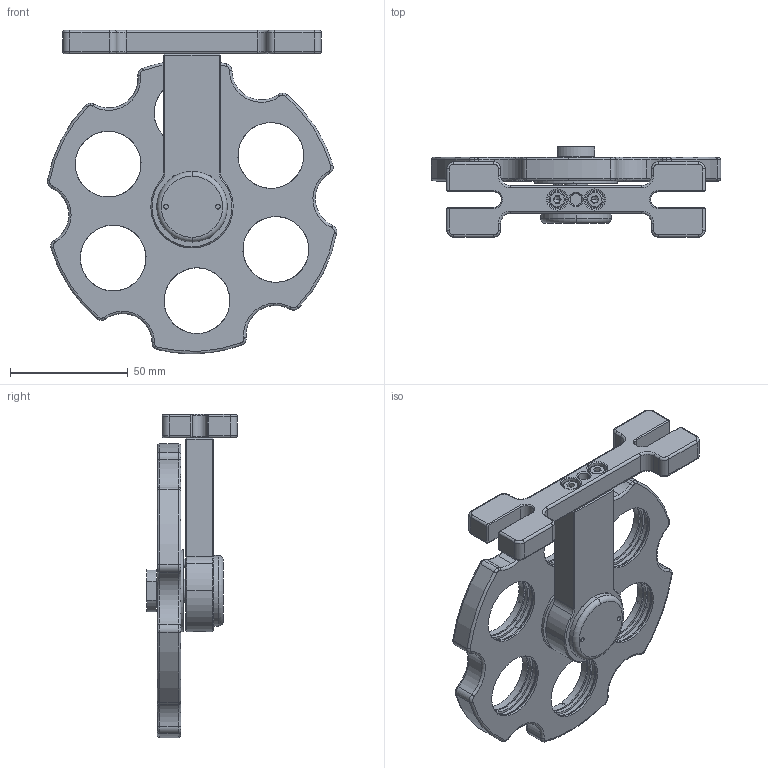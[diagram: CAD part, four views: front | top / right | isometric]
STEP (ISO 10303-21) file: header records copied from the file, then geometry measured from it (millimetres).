
FILE_DESCRIPTION (( 'STEP AP203' ), '1' );
FILE_NAME ('HGMMF330S-0 薦嫖え釱謫蚾饜极.STEP', '2021-05-12T01:38:40', ( '' ), ( '' ), 'SwSTEP 2.0', 'SolidWorks 2020', '' );
FILE_SCHEMA (( 'CONFIG_CONTROL_DESIGN' ));
Length unit declared in the file: millimetre
Products named in the file (1): HGMMF330S-0 薦嫖え釱謫蚾饜极
Bounding box: 123.07 x 38.5 x 137.44 mm (x, y, z)
Volume: 121426.1 mm3; surface area: 70780.6 mm2
Topology: 30 solids, 30 shells, 700 faces, 1571 edges, 964 vertices
Faces by surface type: cylinder 272, plane 222, cone 90, torus 88, sphere 26, bspline 2
Entity records: 20908 total; most frequent: CARTESIAN_POINT 4437, DIRECTION 3839, ORIENTED_EDGE 3122, AXIS2_PLACEMENT_3D 1588, EDGE_CURVE 1561, VERTEX_POINT 964, CIRCLE 889, EDGE_LOOP 817
